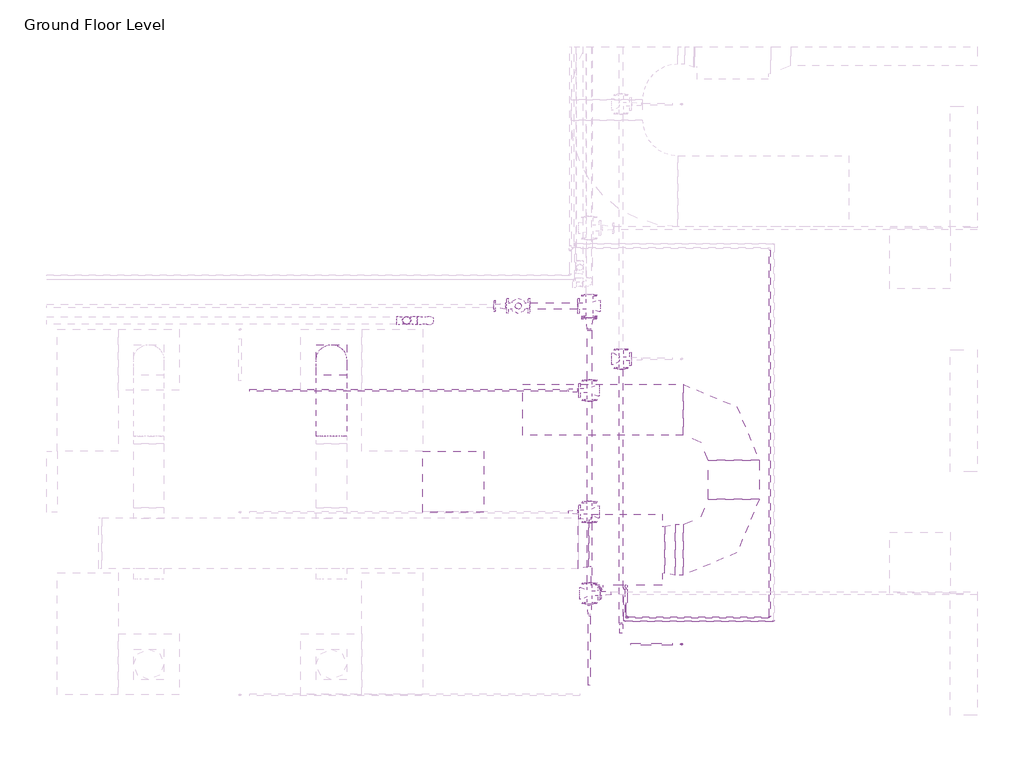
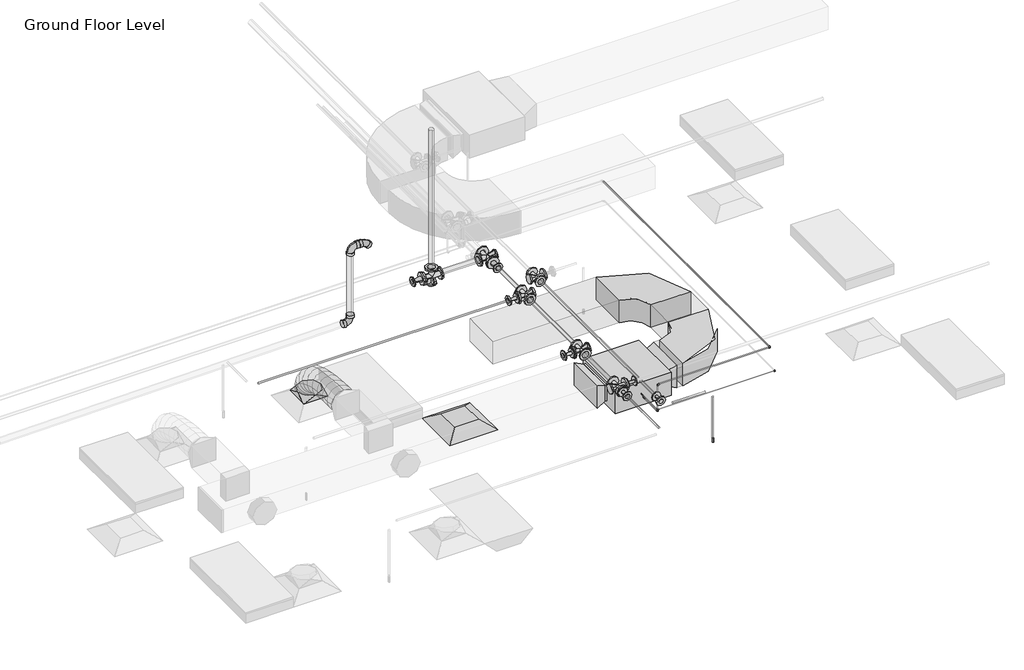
# One storey, part 14 of 66: 21 pipe fittings, 17 pipe segments, 5 duct fittings, 4 duct segments, 1 air terminal, 1 fire suppression terminal, 1 proxy.
"""IFC4 building model written with IfcOpenShell, lengths in millimetres."""

from ifc_helpers import new_model, si_unit, point, frame, frame_2d, origin, place, context, project, spatial, polyline, circle_curve, ellipse_curve, trimmed, segment, composite_curve, outline, extrude, transform, mapped, element, save
from ifc_brep_helpers import plane_surface, cylinder_surface, advanced_brep
from components import m_return_diffuser_600_x_600_face_300_x_300_connection_ff221211, fcu_daikin_iu_bad131e0, m_rectangular_elbow_radius_1_w_abe20169, m_rectangular_transition_angle_45_degree_2b595dfe, m_rectangular_transition_angle_45_degree_f7c2916c, m_rectangular_to_round_transition_angle_45_degree_641efff0, m_sprinkler_pendent_15_mm_pendent_06fcbd8e, m_bend_pvc_sch_40_dwv_standard_0eeb11e1, m_bend_pvc_sch_40_dwv_standard_cec44c9e, m_bend_pvc_sch_40_dwv_standard_14735a05, m_elbow_generic_standard_a088f956, m_elbow_generic_standard_2a704253, m_reducer_flanged_cs_class_150_standard_b6b67c23, m_reducer_flanged_cs_class_150_standard_ccf252ad, m_reducer_flanged_cs_class_150_standard_cc2a7c1d, m_reducer_flanged_cs_class_150_standard_a7631c35, m_reducer_flanged_cs_class_150_standard_678fb8eb, m_reducer_flanged_cs_class_150_standard_13db1923, m_tee_round_base_flanged_cs_class_150_standard_dd767e04, m_tee_round_base_flanged_cs_class_150_standard_7e5987a1, m_tee_round_base_flanged_cs_class_150_standard_9c9133d0

model = new_model("IFC4")

# Units and contexts
model_context = context("Model", 3, world=origin())
ifc_project = project(units=[si_unit("LENGTHUNIT", "METRE", prefix="MILLI")], contexts=[model_context])

# Site, building, storey
site = spatial("IfcSite", under=ifc_project)
building = spatial("IfcBuilding", under=site)
storey = spatial("IfcBuildingStorey", under=building, Name="Ground Floor Level", Elevation=900.0)

# Air terminal
placement = place(None, origin())
m_return_diffuser_600_x_600_face_300_x_300_connection_shape = m_return_diffuser_600_x_600_face_300_x_300_connection_ff221211(model_context)
element("IfcAirTerminal", 1, ObjectType="M_Return Diffuser : 600 x 600 Face 300 x 300 Connection", at=placement, inside=storey, context=model_context, shape_type="MappedRepresentation", body=[
    mapped(m_return_diffuser_600_x_600_face_300_x_300_connection_shape, transform((4342.7672394, -37764.7846466, 3650.0), x_axis=(1.0, 0.0, 0.0), y_axis=(0.0, 1.0, 0.0), z_axis=(0.0, 0.0, 1.0))),
])

# Proxy
fcu_daikin_iu_shape = fcu_daikin_iu_bad131e0(model_context)
element("IfcBuildingElementProxy", 2, Name="FCU-DAIKIN IU : 4.5kW, 230V/50Hz/1Ph", ObjectType="FCU-DAIKIN IU : 4.5kW, 230V/50Hz/1Ph", at=placement, inside=storey, context=model_context, shape_type="MappedRepresentation", body=[
    mapped(fcu_daikin_iu_shape, transform((6052.7672394, -38436.1128682, 3934.0875), x_axis=(0.0, -1.0, 0.0), y_axis=(1.0, 0.0, 0.0), z_axis=(0.0, 0.0, 1.0))),
])

# Duct fittings
m_rectangular_elbow_radius_1_w_shape = m_rectangular_elbow_radius_1_w_abe20169(model_context)
element("IfcDuctFitting", 3, ObjectType="M_Rectangular Elbow - Radius : 1 W", at=placement, inside=storey, context=model_context, shape_type="MappedRepresentation", body=[
    mapped(m_rectangular_elbow_radius_1_w_shape, transform((7108.1672394, -38436.1128682, 4075.2875), x_axis=(1.0, 0.0, 0.0), y_axis=(0.0, 1.0, 0.0), z_axis=(0.0, 0.0, 1.0))),
])
element("IfcDuctFitting", 4, ObjectType="M_Rectangular Elbow - Radius : 1 W", at=placement, inside=storey, context=model_context, shape_type="MappedRepresentation", body=[
    mapped(m_rectangular_elbow_radius_1_w_shape, transform((7108.1672394, -37056.1128682, 4075.2875), x_axis=(0.0, 1.0, 0.0), y_axis=(-1.0, 0.0, 0.0), z_axis=(0.0, 0.0, 1.0))),
])
m_rectangular_transition_angle_45_degree_shape = m_rectangular_transition_angle_45_degree_2b595dfe(model_context)
element("IfcDuctFitting", 5, ObjectType="M_Rectangular Transition - Angle : 45 Degree", at=placement, inside=storey, context=model_context, shape_type="MappedRepresentation", body=[
    mapped(m_rectangular_transition_angle_45_degree_shape, transform((5677.3672394, -38372.6128682, 4100.0), x_axis=(-1.0, 0.0, 0.0), y_axis=(0.0, -1.0, 0.0), z_axis=(0.0, 0.0, 1.0))),
])
m_rectangular_transition_angle_45_degree_2_shape = m_rectangular_transition_angle_45_degree_f7c2916c(model_context)
element("IfcDuctFitting", 6, ObjectType="M_Rectangular Transition - Angle : 45 Degree", at=placement, inside=storey, context=model_context, shape_type="MappedRepresentation", body=[
    mapped(m_rectangular_transition_angle_45_degree_2_shape, transform((6428.1672394, -38436.1128682, 4075.2875), x_axis=(1.0, 0.0, 0.0), y_axis=(0.0, 1.0, 0.0), z_axis=(0.0, 0.0, 1.0))),
])
m_rectangular_to_round_transition_angle_45_degree_shape = m_rectangular_to_round_transition_angle_45_degree_641efff0(model_context)
element("IfcDuctFitting", 7, ObjectType="M_Rectangular to Round Transition - Angle : 45 Degree", at=placement, inside=storey, context=model_context, shape_type="MappedRepresentation", body=[
    mapped(m_rectangular_to_round_transition_angle_45_degree_shape, transform((3142.7672394, -36564.7846466, 3751.6), x_axis=(0.0, 0.0, 1.0), y_axis=(-1.0, 0.0, 0.0), z_axis=(0.0, -1.0, 0.0))),
])

# Duct segments
element("IfcDuctSegment", 8, ObjectType="Flex - Round", at=placement, inside=storey, context=model_context, shape_type="AdvancedBrep", body=[
    advanced_brep(
    [(3292.7672394, -36564.7846466, 3826.6), (3142.7672394, -36714.7846466, 3826.6), (2992.7672394, -36564.7846466, 3826.6), (3142.7672394, -36414.7846466, 3826.6), (3292.7672394, -36564.7846466, 3857.9377114), (3142.7672394, -36714.7846466, 3832.2944892), (2992.7672394, -36564.7846466, 3857.9377114), (3142.7672394, -36414.7846466, 3883.5809337), (3292.7672394, -36581.8005792, 3906.2505728), (3142.7672394, -36715.5385581, 3834.435049), (2992.7672394, -36581.8005792, 3906.2505728), (3142.7672394, -36448.0626002, 3978.0660967), (3292.7672394, -36628.9844595, 3968.7113131), (3142.7672394, -36733.1903588, 3857.8020236), (2992.7672394, -36628.9844595, 3968.7113131), (3142.7672394, -36524.7785603, 4079.6206026), (3292.7672394, -36700.5404117, 4016.0700639), (3142.7672394, -36769.4744673, 3881.8163788), (2992.7672394, -36700.5404117, 4016.0700639), (3142.7672394, -36631.6063561, 4150.3237489), (3292.7672394, -36790.6725597, 4050.4146682), (3142.7672394, -36834.2333229, 3906.4925606), (2992.7672394, -36790.6725597, 4050.4146682), (3142.7672394, -36747.1117965, 4194.3367758), (3292.7672394, -36893.5850275, 4073.8329691), (3142.7672394, -36920.1459515, 3926.0424542), (2992.7672394, -36893.5850275, 4073.8329691), (3142.7672394, -36867.0241035, 4221.6234841), (3292.7672394, -37003.4819393, 4088.4128097), (3142.7672394, -37018.6328416, 3939.1085462), (2992.7672394, -37003.4819393, 4088.4128097), (3142.7672394, -36988.3310369, 4237.7170733), (3292.7672394, -37114.5674189, 4096.242033), (3142.7672394, -37122.0727471, 3946.398915), (2992.7672394, -37114.5674189, 4096.242033), (3142.7672394, -37107.0620907, 4246.085151), (3292.7672394, -37221.0455904, 4099.4084821), (3142.7672394, -37223.7370835, 3949.4222102), (2992.7672394, -37221.0455904, 4099.4084821), (3142.7672394, -37218.3540973, 4249.394754), (3292.7672394, -37317.1205779, 4100.0), (3142.7672394, -37316.1970701, 4249.9971571), (2992.7672394, -37317.1205779, 4100.0), (3142.7672394, -37318.0440857, 3950.0028429)],
    [
        (0, 1, circle_curve(frame((3142.7672394, -36564.7846466, 3826.6), z_axis=(0.0, 0.0, -1.0), x_axis=(1.0, 0.0, 0.0)), 150.0)),
        (1, 2, circle_curve(frame((3142.7672394, -36564.7846466, 3826.6), z_axis=(0.0, 0.0, -1.0), x_axis=(1.0, 0.0, 0.0)), 150.0)),
        (2, 3, circle_curve(frame((3142.7672394, -36564.7846466, 3826.6), z_axis=(0.0, 0.0, -1.0), x_axis=(1.0, 0.0, 0.0)), 150.0)),
        (3, 0, circle_curve(frame((3142.7672394, -36564.7846466, 3826.6), z_axis=(0.0, 0.0, -1.0), x_axis=(1.0, 0.0, 0.0)), 150.0)),
        (0, 4),
        (4, 5, ellipse_curve(frame((3142.7672394, -36564.7846466, 3857.9377114), z_axis=(0.0, 0.16851014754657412, -0.9856999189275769), x_axis=(0.0, -0.9856999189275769, -0.16851014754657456)), 152.176131, 150.0)),
        (5, 1),
        (5, 6, ellipse_curve(frame((3142.7672394, -36564.7846466, 3857.9377114), z_axis=(0.0, 0.16851014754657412, -0.9856999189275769), x_axis=(0.0, -0.9856999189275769, -0.16851014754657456)), 152.176131, 150.0)),
        (6, 2),
        (6, 7, ellipse_curve(frame((3142.7672394, -36564.7846466, 3857.9377114), z_axis=(0.0, 0.16851014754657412, -0.9856999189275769), x_axis=(0.0, -0.9856999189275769, -0.16851014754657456)), 152.176131, 150.0)),
        (7, 3),
        (7, 4, ellipse_curve(frame((3142.7672394, -36564.7846466, 3857.9377114), z_axis=(0.0, 0.16851014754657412, -0.9856999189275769), x_axis=(0.0, -0.9856999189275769, -0.16851014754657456)), 152.176131, 150.0)),
        (4, 8),
        (8, 9, ellipse_curve(frame((3142.7672394, -36581.8005792, 3906.2505728), z_axis=(0.0, 0.47309225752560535, -0.881012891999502), x_axis=(0.0, -0.8810128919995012, -0.473092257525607)), 151.8002519, 150.0)),
        (9, 5),
        (9, 10, ellipse_curve(frame((3142.7672394, -36581.8005792, 3906.2505728), z_axis=(0.0, 0.47309225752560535, -0.881012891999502), x_axis=(0.0, -0.8810128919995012, -0.473092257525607)), 151.8002519, 150.0)),
        (10, 6),
        (10, 11, ellipse_curve(frame((3142.7672394, -36581.8005792, 3906.2505728), z_axis=(0.0, 0.47309225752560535, -0.881012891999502), x_axis=(0.0, -0.8810128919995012, -0.473092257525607)), 151.8002519, 150.0)),
        (11, 7),
        (11, 8, ellipse_curve(frame((3142.7672394, -36581.8005792, 3906.2505728), z_axis=(0.0, 0.47309225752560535, -0.881012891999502), x_axis=(0.0, -0.8810128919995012, -0.473092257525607)), 151.8002519, 150.0)),
        (8, 12),
        (12, 13, ellipse_curve(frame((3142.7672394, -36628.9844595, 3968.7113131), z_axis=(0.0, 0.7287877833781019, -0.6847396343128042), x_axis=(0.0, -0.6847396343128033, -0.7287877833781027)), 152.1832446, 150.0)),
        (13, 9),
        (13, 14, ellipse_curve(frame((3142.7672394, -36628.9844595, 3968.7113131), z_axis=(0.0, 0.7287877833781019, -0.6847396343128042), x_axis=(0.0, -0.6847396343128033, -0.7287877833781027)), 152.1832446, 150.0)),
        (14, 10),
        (14, 15, ellipse_curve(frame((3142.7672394, -36628.9844595, 3968.7113131), z_axis=(0.0, 0.7287877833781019, -0.6847396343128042), x_axis=(0.0, -0.6847396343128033, -0.7287877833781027)), 152.1832446, 150.0)),
        (15, 11),
        (15, 12, ellipse_curve(frame((3142.7672394, -36628.9844595, 3968.7113131), z_axis=(0.0, 0.7287877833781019, -0.6847396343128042), x_axis=(0.0, -0.6847396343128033, -0.7287877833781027)), 152.1832446, 150.0)),
        (12, 16),
        (16, 17, ellipse_curve(frame((3142.7672394, -36700.5404117, 4016.0700639), z_axis=(0.0, 0.8895859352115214, -0.45676784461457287), x_axis=(0.0, -0.4567678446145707, -0.8895859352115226)), 150.91705, 150.0)),
        (17, 13),
        (17, 18, ellipse_curve(frame((3142.7672394, -36700.5404117, 4016.0700639), z_axis=(0.0, 0.8895859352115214, -0.45676784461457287), x_axis=(0.0, -0.4567678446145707, -0.8895859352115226)), 150.91705, 150.0)),
        (18, 14),
        (18, 19, ellipse_curve(frame((3142.7672394, -36700.5404117, 4016.0700639), z_axis=(0.0, 0.8895859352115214, -0.45676784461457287), x_axis=(0.0, -0.4567678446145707, -0.8895859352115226)), 150.91705, 150.0)),
        (19, 15),
        (19, 16, ellipse_curve(frame((3142.7672394, -36700.5404117, 4016.0700639), z_axis=(0.0, 0.8895859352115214, -0.45676784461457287), x_axis=(0.0, -0.4567678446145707, -0.8895859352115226)), 150.91705, 150.0)),
        (16, 20),
        (20, 21, ellipse_curve(frame((3142.7672394, -36790.6725597, 4050.4146682), z_axis=(0.0, 0.9571203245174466, -0.28969067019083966), x_axis=(0.0, -0.2896906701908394, -0.9571203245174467)), 150.369921, 150.0)),
        (21, 17),
        (21, 22, ellipse_curve(frame((3142.7672394, -36790.6725597, 4050.4146682), z_axis=(0.0, 0.9571203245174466, -0.28969067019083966), x_axis=(0.0, -0.2896906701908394, -0.9571203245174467)), 150.369921, 150.0)),
        (22, 18),
        (22, 23, ellipse_curve(frame((3142.7672394, -36790.6725597, 4050.4146682), z_axis=(0.0, 0.9571203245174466, -0.28969067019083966), x_axis=(0.0, -0.2896906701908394, -0.9571203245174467)), 150.369921, 150.0)),
        (23, 19),
        (23, 20, ellipse_curve(frame((3142.7672394, -36790.6725597, 4050.4146682), z_axis=(0.0, 0.9571203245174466, -0.28969067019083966), x_axis=(0.0, -0.2896906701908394, -0.9571203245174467)), 150.369921, 150.0)),
        (20, 24),
        (24, 25, ellipse_curve(frame((3142.7672394, -36893.5850275, 4073.8329691), z_axis=(0.0, 0.9842313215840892, -0.17688613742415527), x_axis=(0.0, -0.17688613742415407, -0.9842313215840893)), 150.1583131, 150.0)),
        (25, 21),
        (25, 26, ellipse_curve(frame((3142.7672394, -36893.5850275, 4073.8329691), z_axis=(0.0, 0.9842313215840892, -0.17688613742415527), x_axis=(0.0, -0.17688613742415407, -0.9842313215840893)), 150.1583131, 150.0)),
        (26, 22),
        (26, 27, ellipse_curve(frame((3142.7672394, -36893.5850275, 4073.8329691), z_axis=(0.0, 0.9842313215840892, -0.17688613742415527), x_axis=(0.0, -0.17688613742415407, -0.9842313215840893)), 150.1583131, 150.0)),
        (27, 23),
        (27, 24, ellipse_curve(frame((3142.7672394, -36893.5850275, 4073.8329691), z_axis=(0.0, 0.9842313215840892, -0.17688613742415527), x_axis=(0.0, -0.17688613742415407, -0.9842313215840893)), 150.1583131, 150.0)),
        (24, 28),
        (28, 29, ellipse_curve(frame((3142.7672394, -37003.4819393, 4088.4128097), z_axis=(0.0, 0.9948906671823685, -0.10095821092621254), x_axis=(0.0, -0.10095821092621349, -0.9948906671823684)), 150.0710264, 150.0)),
        (29, 25),
        (29, 30, ellipse_curve(frame((3142.7672394, -37003.4819393, 4088.4128097), z_axis=(0.0, 0.9948906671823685, -0.10095821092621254), x_axis=(0.0, -0.10095821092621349, -0.9948906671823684)), 150.0710264, 150.0)),
        (30, 26),
        (30, 31, ellipse_curve(frame((3142.7672394, -37003.4819393, 4088.4128097), z_axis=(0.0, 0.9948906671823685, -0.10095821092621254), x_axis=(0.0, -0.10095821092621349, -0.9948906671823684)), 150.0710264, 150.0)),
        (31, 27),
        (31, 28, ellipse_curve(frame((3142.7672394, -37003.4819393, 4088.4128097), z_axis=(0.0, 0.9948906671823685, -0.10095821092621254), x_axis=(0.0, -0.10095821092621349, -0.9948906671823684)), 150.0710264, 150.0)),
        (28, 32),
        (32, 33, ellipse_curve(frame((3142.7672394, -37114.5674189, 4096.242033), z_axis=(0.0, 0.9987479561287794, -0.05002519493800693), x_axis=(0.0, -0.05002519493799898, -0.99874795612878)), 150.0309634, 150.0)),
        (33, 29),
        (33, 34, ellipse_curve(frame((3142.7672394, -37114.5674189, 4096.242033), z_axis=(0.0, 0.9987479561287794, -0.05002519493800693), x_axis=(0.0, -0.05002519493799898, -0.99874795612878)), 150.0309634, 150.0)),
        (34, 30),
        (34, 35, ellipse_curve(frame((3142.7672394, -37114.5674189, 4096.242033), z_axis=(0.0, 0.9987479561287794, -0.05002519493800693), x_axis=(0.0, -0.05002519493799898, -0.99874795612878)), 150.0309634, 150.0)),
        (35, 31),
        (35, 32, ellipse_curve(frame((3142.7672394, -37114.5674189, 4096.242033), z_axis=(0.0, 0.9987479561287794, -0.05002519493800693), x_axis=(0.0, -0.05002519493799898, -0.99874795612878)), 150.0309634, 150.0)),
        (32, 36),
        (36, 37, ellipse_curve(frame((3142.7672394, -37221.0455904, 4099.4084821), z_axis=(0.0, 0.999839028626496, -0.01794204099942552), x_axis=(0.0, -0.01794204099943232, -0.9998390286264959)), 150.0104193, 150.0)),
        (37, 33),
        (37, 38, ellipse_curve(frame((3142.7672394, -37221.0455904, 4099.4084821), z_axis=(0.0, 0.999839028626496, -0.01794204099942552), x_axis=(0.0, -0.01794204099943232, -0.9998390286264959)), 150.0104193, 150.0)),
        (38, 34),
        (38, 39, ellipse_curve(frame((3142.7672394, -37221.0455904, 4099.4084821), z_axis=(0.0, 0.999839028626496, -0.01794204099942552), x_axis=(0.0, -0.01794204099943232, -0.9998390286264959)), 150.0104193, 150.0)),
        (39, 35),
        (39, 36, ellipse_curve(frame((3142.7672394, -37221.0455904, 4099.4084821), z_axis=(0.0, 0.999839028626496, -0.01794204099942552), x_axis=(0.0, -0.01794204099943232, -0.9998390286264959)), 150.0104193, 150.0)),
        (40, 41, circle_curve(frame((3142.7672394, -37317.1205779, 4100.0), z_axis=(0.0, -0.9999810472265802, 0.006156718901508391), x_axis=(1.0, 0.0, 0.0)), 150.0)),
        (41, 42, circle_curve(frame((3142.7672394, -37317.1205779, 4100.0), z_axis=(0.0, -0.9999810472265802, 0.006156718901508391), x_axis=(1.0, 0.0, 0.0)), 150.0)),
        (42, 43, circle_curve(frame((3142.7672394, -37317.1205779, 4100.0), z_axis=(0.0, -0.9999810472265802, 0.006156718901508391), x_axis=(1.0, 0.0, 0.0)), 150.0)),
        (43, 40, circle_curve(frame((3142.7672394, -37317.1205779, 4100.0), z_axis=(0.0, -0.9999810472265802, 0.006156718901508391), x_axis=(1.0, 0.0, 0.0)), 150.0)),
        (36, 40),
        (43, 37),
        (42, 38),
        (41, 39),
    ],
    [
        plane_surface(frame((3142.7672394, -36714.7846466, 3826.6), z_axis=(0.0, 0.0, -1.0), x_axis=(1.0, 0.0, 0.0))),
        cylinder_surface(frame((3142.7672394, -36564.7846466, 3826.6), z_axis=(0.0, 0.0, -1.0), x_axis=(1.0, 0.0, 0.0)), 150.0),
        cylinder_surface(frame((3142.7672394, -36564.7846466, 3857.9377114), z_axis=(0.0, 0.3322008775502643, -0.9432086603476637), x_axis=(1.0, 0.0, 0.0)), 150.0),
        cylinder_surface(frame((3142.7672394, -36581.8005792, 3906.2505728), z_axis=(0.0, 0.6027625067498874, -0.7979206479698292), x_axis=(1.0, 0.0, 0.0)), 150.0),
        cylinder_surface(frame((3142.7672394, -36628.9844595, 3968.7113131), z_axis=(0.0, 0.8339024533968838, -0.5519118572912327), x_axis=(1.0, 0.0, 0.0)), 150.0),
        cylinder_surface(frame((3142.7672394, -36700.5404117, 4016.0700639), z_axis=(0.0, 0.9344582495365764, -0.3560727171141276), x_axis=(1.0, 0.0, 0.0)), 150.0),
        cylinder_surface(frame((3142.7672394, -36790.6725597, 4050.4146682), z_axis=(0.0, 0.9750732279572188, -0.22188330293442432), x_axis=(1.0, 0.0, 0.0)), 150.0),
        cylinder_surface(frame((3142.7672394, -36893.5850275, 4073.8329691), z_axis=(0.0, 0.991314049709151, -0.13151598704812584), x_axis=(1.0, 0.0, 0.0)), 150.0),
        cylinder_surface(frame((3142.7672394, -37003.4819393, 4088.4128097), z_axis=(0.0, 0.9975255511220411, -0.07030487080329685), x_axis=(1.0, 0.0, 0.0)), 150.0),
        cylinder_surface(frame((3142.7672394, -37114.5674189, 4096.242033), z_axis=(0.0, 0.9995581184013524, -0.029724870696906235), x_axis=(1.0, 0.0, 0.0)), 150.0),
        plane_surface(frame((3142.7672394, -37318.0440857, 3950.0028429), z_axis=(0.0, -0.9999810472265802, 0.006156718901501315), x_axis=(1.0, 0.0, 0.0))),
        cylinder_surface(frame((3142.7672394, -37221.0455904, 4099.4084821), z_axis=(0.0, 0.9999810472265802, -0.006156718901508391), x_axis=(1.0, 0.0, 0.0)), 150.0),
    ],
    [
        (0, [[1, 2, 3, 4]]),
        (1, [[-1, 5, 6, 7]]),
        (1, [[-2, -7, 8, 9]]),
        (1, [[-3, -9, 10, 11]]),
        (1, [[-4, -11, 12, -5]]),
        (2, [[-6, 13, 14, 15]]),
        (2, [[-8, -15, 16, 17]]),
        (2, [[-10, -17, 18, 19]]),
        (2, [[-12, -19, 20, -13]]),
        (3, [[-14, 21, 22, 23]]),
        (3, [[-16, -23, 24, 25]]),
        (3, [[-18, -25, 26, 27]]),
        (3, [[-20, -27, 28, -21]]),
        (4, [[-22, 29, 30, 31]]),
        (4, [[-24, -31, 32, 33]]),
        (4, [[-26, -33, 34, 35]]),
        (4, [[-28, -35, 36, -29]]),
        (5, [[-30, 37, 38, 39]]),
        (5, [[-32, -39, 40, 41]]),
        (5, [[-34, -41, 42, 43]]),
        (5, [[-36, -43, 44, -37]]),
        (6, [[-38, 45, 46, 47]]),
        (6, [[-40, -47, 48, 49]]),
        (6, [[-42, -49, 50, 51]]),
        (6, [[-44, -51, 52, -45]]),
        (7, [[-46, 53, 54, 55]]),
        (7, [[-48, -55, 56, 57]]),
        (7, [[-50, -57, 58, 59]]),
        (7, [[-52, -59, 60, -53]]),
        (8, [[-54, 61, 62, 63]]),
        (8, [[-56, -63, 64, 65]]),
        (8, [[-58, -65, 66, 67]]),
        (8, [[-60, -67, 68, -61]]),
        (9, [[-62, 69, 70, 71]]),
        (9, [[-64, -71, 72, 73]]),
        (9, [[-66, -73, 74, 75]]),
        (9, [[-68, -75, 76, -69]]),
        (10, [[77, 78, 79, 80]]),
        (11, [[-70, 81, -80, 82]]),
        (11, [[-72, -82, -79, 83]]),
        (11, [[-74, -83, -78, 84]]),
        (11, [[-76, -84, -77, -81]]),
    ],
),
])
element("IfcDuctSegment", 9, ObjectType="Radius Elbows / Taps", at=placement, inside=storey, context=model_context, shape_type="SweptSolid", body=[
    extrude(outline(polyline([(6531.6162906, -38686.1128682), (6531.6162906, -38186.1128682), (6608.1672394, -38186.1128682), (6608.1672394, -38686.1128682), (6531.6162906, -38686.1128682)])), frame((0.0, 0.0, 3925.2875), z_axis=(0.0, 0.0, 1.0), x_axis=(1.0, 0.0, 0.0)), (0.0, 0.0, 1.0), 300.0),
])
element("IfcDuctSegment", 10, ObjectType="Radius Elbows / Taps", at=placement, inside=storey, context=model_context, shape_type="SweptSolid", body=[
    extrude(outline(polyline([(7358.1672394, -37936.1128682), (6858.1672394, -37936.1128682), (6858.1672394, -37556.1128682), (7358.1672394, -37556.1128682), (7358.1672394, -37936.1128682)])), frame((0.0, 0.0, 3925.2875), z_axis=(0.0, 0.0, 1.0), x_axis=(1.0, 0.0, 0.0)), (0.0, 0.0, 1.0), 300.0),
])
element("IfcDuctSegment", 11, ObjectType="Radius Elbows / Taps", at=placement, inside=storey, context=model_context, shape_type="SweptSolid", body=[
    extrude(outline(polyline([(6608.1672394, -36806.1128682), (6608.1672394, -37306.1128682), (5028.1672394, -37306.1128682), (5028.1672394, -36806.1128682), (6608.1672394, -36806.1128682)])), frame((0.0, 0.0, 3925.2875), z_axis=(0.0, 0.0, 1.0), x_axis=(1.0, 0.0, 0.0)), (0.0, 0.0, 1.0), 300.0),
])

# Fire suppression terminal
m_sprinkler_pendent_15_mm_pendent_shape = m_sprinkler_pendent_15_mm_pendent_06fcbd8e(model_context)
element("IfcFireSuppressionTerminal", 12, ObjectType="M_Sprinkler - Pendent : 15 mm Pendent", at=placement, inside=storey, context=model_context, shape_type="MappedRepresentation", body=[
    mapped(m_sprinkler_pendent_15_mm_pendent_shape, transform((6592.5481019, -39366.4607861, 3650.0), x_axis=(1.0, 0.0, 0.0), y_axis=(0.0, 1.0, 0.0), z_axis=(0.0, 0.0, 1.0))),
])

# Pipe fittings
m_bend_pvc_sch_40_dwv_standard_shape = m_bend_pvc_sch_40_dwv_standard_0eeb11e1(model_context)
element("IfcPipeFitting", 13, ObjectType="M_Bend - PVC - Sch 40 - DWV : Standard", at=placement, inside=storey, context=model_context, shape_type="MappedRepresentation", body=[
    mapped(m_bend_pvc_sch_40_dwv_standard_shape, transform((3884.407481, -36176.1401483, 4209.2900099), x_axis=(0.9999500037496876, 0.0, 0.009999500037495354), y_axis=(-0.009999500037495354, 0.0, 0.9999500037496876), z_axis=(0.0, -1.0, 0.0))),
])
m_bend_pvc_sch_40_dwv_standard_2_shape = m_bend_pvc_sch_40_dwv_standard_cec44c9e(model_context)
element("IfcPipeFitting", 14, ObjectType="M_Bend - PVC - Sch 40 - DWV : Standard", at=placement, inside=storey, context=model_context, shape_type="MappedRepresentation", body=[
    mapped(m_bend_pvc_sch_40_dwv_standard_2_shape, transform((3884.3964821, -36176.1401483, 5200.5901311), x_axis=(0.0, 0.0, 1.0), y_axis=(1.0, 0.0, 0.0), z_axis=(0.0, 1.0, 0.0))),
])
m_bend_pvc_sch_40_dwv_standard_3_shape = m_bend_pvc_sch_40_dwv_standard_14735a05(model_context)
element("IfcPipeFitting", 15, ObjectType="M_Bend - PVC - Sch 40 - DWV : Standard", at=placement, inside=storey, context=model_context, shape_type="MappedRepresentation", body=[
    mapped(m_bend_pvc_sch_40_dwv_standard_3_shape, transform((4066.142039, -36176.1401483, 5198.6726756), x_axis=(0.9999500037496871, 0.0, -0.009999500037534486), y_axis=(-0.009999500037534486, 0.0, -0.9999500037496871), z_axis=(0.0, 1.0, 0.0))),
])
m_elbow_generic_standard_shape = m_elbow_generic_standard_a088f956(model_context)
element("IfcPipeFitting", 16, ObjectType="M_Elbow - Generic : Standard", at=placement, inside=storey, context=model_context, shape_type="MappedRepresentation", body=[
    mapped(m_elbow_generic_standard_shape, transform((6052.7672394, -39103.1206952, 4034.0875), x_axis=(0.0, -1.0, 0.0), y_axis=(0.0, 0.0, 1.0), z_axis=(-1.0, 0.0, 0.0))),
])
element("IfcPipeFitting", 17, ObjectType="M_Elbow - Generic : Standard", at=placement, inside=storey, context=model_context, shape_type="MappedRepresentation", body=[
    mapped(m_elbow_generic_standard_shape, transform((6052.7672394, -39103.1206952, 4390.0), x_axis=(0.0, 0.0, 1.0), y_axis=(1.0, 0.0, 0.0), z_axis=(0.0, 1.0, 0.0))),
])
element("IfcPipeFitting", 18, ObjectType="M_Elbow - Generic : Standard", at=placement, inside=storey, context=model_context, shape_type="MappedRepresentation", body=[
    mapped(m_elbow_generic_standard_shape, transform((7462.8951827, -39103.1206952, 4390.0), x_axis=(1.0, 0.0, 0.0), y_axis=(0.0, 1.0, 0.0), z_axis=(0.0, 0.0, 1.0))),
])
m_elbow_generic_standard_2_shape = m_elbow_generic_standard_2a704253(model_context)
element("IfcPipeFitting", 19, ObjectType="M_Elbow - Generic : Standard", at=placement, inside=storey, context=model_context, shape_type="MappedRepresentation", body=[
    mapped(m_elbow_generic_standard_2_shape, transform((7503.9904113, -39140.6009836, 4084.9), x_axis=(1.0, 0.0, 0.0), y_axis=(0.0, 1.0, 0.0), z_axis=(0.0, 0.0, 1.0))),
])
element("IfcPipeFitting", 20, ObjectType="M_Elbow - Generic : Standard", at=placement, inside=storey, context=model_context, shape_type="MappedRepresentation", body=[
    mapped(m_elbow_generic_standard_2_shape, transform((6027.7672393, -39140.6009836, 4084.9), x_axis=(0.0, -0.9999999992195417, 3.9508437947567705e-05), y_axis=(1.0000000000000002, 0.0, 0.0), z_axis=(0.0, 3.9508437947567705e-05, 0.9999999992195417))),
])
m_reducer_flanged_cs_class_150_standard_shape = m_reducer_flanged_cs_class_150_standard_b6b67c23(model_context)
element("IfcPipeFitting", 21, ObjectType="M_Reducer - Flanged - CS - Class 150 : Standard", at=placement, inside=storey, context=model_context, shape_type="MappedRepresentation", body=[
    mapped(m_reducer_flanged_cs_class_150_standard_shape, transform((5790.7160832, -38864.7846466, 4347.5), x_axis=(1.0, 0.0, 0.0), y_axis=(0.0, 0.0, 1.0), z_axis=(0.0, -1.0, 0.0))),
])
m_reducer_flanged_cs_class_150_standard_2_shape = m_reducer_flanged_cs_class_150_standard_ccf252ad(model_context)
element("IfcPipeFitting", 22, ObjectType="M_Reducer - Flanged - CS - Class 150 : Standard", at=placement, inside=storey, context=model_context, shape_type="MappedRepresentation", body=[
    mapped(m_reducer_flanged_cs_class_150_standard_2_shape, transform((5997.057812, -39159.4521923, 4291.0943441), x_axis=(0.0, -1.0, 0.0), y_axis=(1.0, 0.0, 0.0), z_axis=(0.0, 0.0, 1.0))),
])
m_reducer_flanged_cs_class_150_standard_3_shape = m_reducer_flanged_cs_class_150_standard_cc2a7c1d(model_context)
element("IfcPipeFitting", 23, ObjectType="M_Reducer - Flanged - CS - Class 150 : Standard", at=placement, inside=storey, context=model_context, shape_type="MappedRepresentation", body=[
    mapped(m_reducer_flanged_cs_class_150_standard_3_shape, transform((5578.5188957, -38064.7846466, 4347.5), x_axis=(-1.0, 0.0, 0.0), y_axis=(0.0, 0.0, -1.0), z_axis=(0.0, -1.0, 0.0))),
])
m_reducer_flanged_cs_class_150_standard_4_shape = m_reducer_flanged_cs_class_150_standard_a7631c35(model_context)
element("IfcPipeFitting", 24, ObjectType="M_Reducer - Flanged - CS - Class 150 : Standard", at=placement, inside=storey, context=model_context, shape_type="MappedRepresentation", body=[
    mapped(m_reducer_flanged_cs_class_150_standard_4_shape, transform((4870.6174894, -36033.7985971, 4347.5), x_axis=(-1.0, 0.0, 0.0), y_axis=(0.0, -1.0, 0.0), z_axis=(0.0, 0.0, 1.0))),
])
m_reducer_flanged_cs_class_150_standard_5_shape = m_reducer_flanged_cs_class_150_standard_678fb8eb(model_context)
element("IfcPipeFitting", 25, ObjectType="M_Reducer - Flanged - CS - Class 150 : Standard", at=placement, inside=storey, context=model_context, shape_type="MappedRepresentation", body=[
    mapped(m_reducer_flanged_cs_class_150_standard_5_shape, transform((5578.5188957, -36864.7846466, 4347.5), x_axis=(-1.0, 0.0, 0.0), y_axis=(0.0, -1.0, 0.0), z_axis=(0.0, 0.0, 1.0))),
])
element("IfcPipeFitting", 26, ObjectType="M_Reducer - Flanged - CS - Class 150 : Standard", at=placement, inside=storey, context=model_context, shape_type="MappedRepresentation", body=[
    mapped(m_reducer_flanged_cs_class_150_standard_5_shape, transform((5684.6174894, -38970.8832404, 4347.5), x_axis=(0.0, -1.0, 0.0), y_axis=(1.0, 0.0, 0.0), z_axis=(0.0, 0.0, 1.0))),
])
m_reducer_flanged_cs_class_150_standard_6_shape = m_reducer_flanged_cs_class_150_standard_13db1923(model_context)
element("IfcPipeFitting", 27, ObjectType="M_Reducer - Flanged - CS - Class 150 : Standard", at=placement, inside=storey, context=model_context, shape_type="MappedRepresentation", body=[
    mapped(m_reducer_flanged_cs_class_150_standard_6_shape, transform((5684.6174894, -36147.7985971, 4347.5), x_axis=(0.0, -1.0, 0.0), y_axis=(1.0, 0.0, 0.0), z_axis=(0.0, 0.0, 1.0))),
])
m_tee_round_base_flanged_cs_class_150_standard_shape = m_tee_round_base_flanged_cs_class_150_standard_dd767e04(model_context)
element("IfcPipeFitting", 28, ObjectType="M_Tee Round Base - Flanged - CS - Class 150 : Standard", at=placement, inside=storey, context=model_context, shape_type="MappedRepresentation", body=[
    mapped(m_tee_round_base_flanged_cs_class_150_standard_shape, transform((5684.6174894, -36033.7985971, 4347.5), x_axis=(0.0, 1.0, 0.0), y_axis=(1.0, 0.0, 0.0), z_axis=(0.0, 0.0, -1.0))),
])
element("IfcPipeFitting", 29, ObjectType="M_Tee Round Base - Flanged - CS - Class 150 : Standard", at=placement, inside=storey, context=model_context, shape_type="MappedRepresentation", body=[
    mapped(m_tee_round_base_flanged_cs_class_150_standard_shape, transform((4984.6174894, -36033.7985971, 4347.5), x_axis=(-1.0, 0.0, 0.0), y_axis=(0.0, 0.0, -1.0), z_axis=(0.0, -1.0, 0.0))),
])
m_tee_round_base_flanged_cs_class_150_standard_2_shape = m_tee_round_base_flanged_cs_class_150_standard_7e5987a1(model_context)
element("IfcPipeFitting", 30, ObjectType="M_Tee Round Base - Flanged - CS - Class 150 : Standard", at=placement, inside=storey, context=model_context, shape_type="MappedRepresentation", body=[
    mapped(m_tee_round_base_flanged_cs_class_150_standard_2_shape, transform((5997.057812, -36555.4049984, 4291.0943441), x_axis=(0.0, 1.0, 0.0), y_axis=(-1.0, 0.0, 0.0), z_axis=(0.0, 0.0, 1.0))),
])
m_tee_round_base_flanged_cs_class_150_standard_3_shape = m_tee_round_base_flanged_cs_class_150_standard_9c9133d0(model_context)
element("IfcPipeFitting", 31, ObjectType="M_Tee Round Base - Flanged - CS - Class 150 : Standard", at=placement, inside=storey, context=model_context, shape_type="MappedRepresentation", body=[
    mapped(m_tee_round_base_flanged_cs_class_150_standard_3_shape, transform((5684.6174894, -38064.7846466, 4347.5), x_axis=(0.0, 1.0, 0.0), y_axis=(1.0, 0.0, 0.0), z_axis=(0.0, 0.0, -1.0))),
])
element("IfcPipeFitting", 32, ObjectType="M_Tee Round Base - Flanged - CS - Class 150 : Standard", at=placement, inside=storey, context=model_context, shape_type="MappedRepresentation", body=[
    mapped(m_tee_round_base_flanged_cs_class_150_standard_3_shape, transform((5684.6174894, -38864.7846466, 4347.5), x_axis=(0.0, 1.0, 0.0), y_axis=(-1.0, 0.0, 0.0), z_axis=(0.0, 0.0, 1.0))),
])
element("IfcPipeFitting", 33, ObjectType="M_Tee Round Base - Flanged - CS - Class 150 : Standard", at=placement, inside=storey, context=model_context, shape_type="MappedRepresentation", body=[
    mapped(m_tee_round_base_flanged_cs_class_150_standard_3_shape, transform((5684.6174894, -36864.7846466, 4347.5), x_axis=(0.0, 1.0, 0.0), y_axis=(1.0, 0.0, 0.0), z_axis=(0.0, 0.0, -1.0))),
])

# Pipe segments
element("IfcPipeSegment", 34, ObjectType="Copper", at=placement, inside=storey, context=model_context, shape_type="SweptSolid", body=[
    extrude(outline(composite_curve([segment(trimmed(circle_curve(frame_2d((4390.0, 7462.8951827)), 6.5), [point((4390.0, 7456.3951827))], [point((4383.5, 7462.8951827))], False, "CARTESIAN"), True, "CONTINUOUS"), segment(trimmed(circle_curve(frame_2d((4390.0, 7462.8951827)), 6.5), [point((4383.5, 7462.8951827))], [point((4390.0, 7469.3951827))], False, "CARTESIAN"), True, "CONTINUOUS"), segment(trimmed(circle_curve(frame_2d((4390.0, 7462.8951827)), 6.5), [point((4390.0, 7469.3951827))], [point((4396.5, 7462.8951827))], False, "CARTESIAN"), True, "CONTINUOUS"), segment(trimmed(circle_curve(frame_2d((4390.0, 7462.8951827)), 6.5), [point((4396.5, 7462.8951827))], [point((4390.0, 7456.3951827))], False, "CARTESIAN"), True, "CONTINUOUS")], self_intersect=False)), frame((0.0, -39088.8331952, 0.0), z_axis=(0.0, 1.0, 0.0), x_axis=(0.0, 0.0, 1.0)), (0.0, 0.0, 1.0), 3611.425),
])
element("IfcPipeSegment", 35, ObjectType="Copper", at=placement, inside=storey, context=model_context, shape_type="SweptSolid", body=[
    extrude(outline(composite_curve([segment(trimmed(circle_curve(frame_2d((-39103.1206952, 4390.0)), 6.5), [point((-39109.6206952, 4390.0))], [point((-39103.1206952, 4396.5))], False, "CARTESIAN"), True, "CONTINUOUS"), segment(trimmed(circle_curve(frame_2d((-39103.1206952, 4390.0)), 6.5), [point((-39103.1206952, 4396.5))], [point((-39096.6206952, 4390.0))], False, "CARTESIAN"), True, "CONTINUOUS"), segment(trimmed(circle_curve(frame_2d((-39103.1206952, 4390.0)), 6.5), [point((-39096.6206952, 4390.0))], [point((-39103.1206952, 4383.5))], False, "CARTESIAN"), True, "CONTINUOUS"), segment(trimmed(circle_curve(frame_2d((-39103.1206952, 4390.0)), 6.5), [point((-39103.1206952, 4383.5))], [point((-39109.6206952, 4390.0))], False, "CARTESIAN"), True, "CONTINUOUS")], self_intersect=False)), frame((6067.0547394, 0.0, 0.0), z_axis=(1.0, 0.0, 0.0), x_axis=(0.0, 1.0, 0.0)), (0.0, 0.0, 1.0), 1381.5529433),
])
element("IfcPipeSegment", 36, ObjectType="Copper", at=placement, inside=storey, context=model_context, shape_type="SweptSolid", body=[
    extrude(outline(composite_curve([segment(trimmed(circle_curve(frame_2d((-39140.6009836, 4084.9)), 3.35), [point((-39137.2509836, 4084.9))], [point((-39140.6009836, 4081.55))], False, "CARTESIAN"), True, "CONTINUOUS"), segment(trimmed(circle_curve(frame_2d((-39140.6009836, 4084.9)), 3.35), [point((-39140.6009836, 4081.55))], [point((-39143.9509836, 4084.9))], False, "CARTESIAN"), True, "CONTINUOUS"), segment(trimmed(circle_curve(frame_2d((-39140.6009836, 4084.9)), 3.35), [point((-39143.9509836, 4084.9))], [point((-39140.6009836, 4088.25))], False, "CARTESIAN"), True, "CONTINUOUS"), segment(trimmed(circle_curve(frame_2d((-39140.6009836, 4084.9)), 3.35), [point((-39140.6009836, 4088.25))], [point((-39137.2509836, 4084.9))], False, "CARTESIAN"), True, "CONTINUOUS")], self_intersect=False)), frame((6038.9047393, 0.0, 0.0), z_axis=(1.0, 0.0, 0.0), x_axis=(0.0, 1.0, 0.0)), (0.0, 0.0, 1.0), 1453.948172),
])
element("IfcPipeSegment", 37, ObjectType="Copper", at=placement, inside=storey, context=model_context, shape_type="SweptSolid", body=[
    extrude(outline(composite_curve([segment(trimmed(circle_curve(frame_2d((0.0, -3.35)), 3.35), [point((0.0, -6.7))], [point((-3.35, -3.35))], False, "CARTESIAN"), True, "CONTINUOUS"), segment(trimmed(circle_curve(frame_2d((0.0, -3.35)), 3.35), [point((-3.35, -3.35))], [point((0.0, 0.0))], False, "CARTESIAN"), True, "CONTINUOUS"), segment(trimmed(circle_curve(frame_2d((0.0, -3.35)), 3.35), [point((0.0, 0.0))], [point((3.35, -3.35))], False, "CARTESIAN"), True, "CONTINUOUS"), segment(trimmed(circle_curve(frame_2d((0.0, -3.35)), 3.35), [point((3.35, -3.35))], [point((0.0, -6.7))], False, "CARTESIAN"), True, "CONTINUOUS")], self_intersect=False)), frame((6024.4172393, -38824.2128682, 4084.8875), z_axis=(0.0, -0.9999999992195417, 3.950843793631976e-05), x_axis=(0.0, 3.950843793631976e-05, 0.9999999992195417)), (0.0, 0.0, 1.0), 305.2506156),
])
element("IfcPipeSegment", 38, ObjectType="Copper", at=placement, inside=storey, context=model_context, shape_type="SweptSolid", body=[
    extrude(outline(composite_curve([segment(trimmed(circle_curve(frame_2d((4034.0875, 6052.7672394)), 6.5), [point((4034.0875, 6046.2672394))], [point((4027.5875, 6052.7672394))], False, "CARTESIAN"), True, "CONTINUOUS"), segment(trimmed(circle_curve(frame_2d((4034.0875, 6052.7672394)), 6.5), [point((4027.5875, 6052.7672394))], [point((4034.0875, 6059.2672394))], False, "CARTESIAN"), True, "CONTINUOUS"), segment(trimmed(circle_curve(frame_2d((4034.0875, 6052.7672394)), 6.5), [point((4034.0875, 6059.2672394))], [point((4040.5875, 6052.7672394))], False, "CARTESIAN"), True, "CONTINUOUS"), segment(trimmed(circle_curve(frame_2d((4034.0875, 6052.7672394)), 6.5), [point((4040.5875, 6052.7672394))], [point((4034.0875, 6046.2672394))], False, "CARTESIAN"), True, "CONTINUOUS")], self_intersect=False)), frame((0.0, -39088.8331952, 0.0), z_axis=(0.0, 1.0, 0.0), x_axis=(0.0, 0.0, 1.0)), (0.0, 0.0, 1.0), 264.6203269),
])
element("IfcPipeSegment", 39, ObjectType="Copper", at=placement, inside=storey, context=model_context, shape_type="SweptSolid", body=[
    extrude(outline(composite_curve([segment(trimmed(circle_curve(frame_2d((6052.7672394, -39103.1206952)), 6.5), [point((6046.2672394, -39103.1206952))], [point((6052.7672394, -39096.6206952))], False, "CARTESIAN"), True, "CONTINUOUS"), segment(trimmed(circle_curve(frame_2d((6052.7672394, -39103.1206952)), 6.5), [point((6052.7672394, -39096.6206952))], [point((6059.2672394, -39103.1206952))], False, "CARTESIAN"), True, "CONTINUOUS"), segment(trimmed(circle_curve(frame_2d((6052.7672394, -39103.1206952)), 6.5), [point((6059.2672394, -39103.1206952))], [point((6052.7672394, -39109.6206952))], False, "CARTESIAN"), True, "CONTINUOUS"), segment(trimmed(circle_curve(frame_2d((6052.7672394, -39103.1206952)), 6.5), [point((6052.7672394, -39109.6206952))], [point((6046.2672394, -39103.1206952))], False, "CARTESIAN"), True, "CONTINUOUS")], self_intersect=False)), frame((0.0, 0.0, 4048.375), z_axis=(0.0, 0.0, 1.0), x_axis=(1.0, 0.0, 0.0)), (0.0, 0.0, 1.0), 327.3375),
])
element("IfcPipeSegment", 40, ObjectType="PVC - DWV", at=placement, inside=storey, context=model_context, shape_type="SweptSolid", body=[
    extrude(outline(composite_curve([segment(trimmed(circle_curve(frame_2d((0.0, 36.5125)), 36.5125), [point((-36.5125, 36.5125))], [point((0.0, 73.025))], False, "CARTESIAN"), True, "CONTINUOUS"), segment(trimmed(circle_curve(frame_2d((0.0, 36.5125)), 36.5125), [point((0.0, 73.025))], [point((36.5125, 36.5125))], False, "CARTESIAN"), True, "CONTINUOUS"), segment(trimmed(circle_curve(frame_2d((0.0, 36.5125)), 36.5125), [point((36.5125, 36.5125))], [point((0.0, 0.0))], False, "CARTESIAN"), True, "CONTINUOUS"), segment(trimmed(circle_curve(frame_2d((0.0, 36.5125)), 36.5125), [point((0.0, 0.0))], [point((-36.5125, 36.5125))], False, "CARTESIAN"), True, "CONTINUOUS")], self_intersect=False)), frame((3884.407481, -36212.6526483, 4308.3040724), z_axis=(-1.386523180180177e-05, 0.0, 0.9999999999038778), x_axis=(0.9999999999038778, 0.0, 1.386523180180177e-05)), (0.0, 0.0, 1.0), 793.2719963),
])
element("IfcPipeSegment", 41, ObjectType="Steel flanged", at=placement, inside=storey, context=model_context, shape_type="SweptSolid", body=[
    extrude(outline(composite_curve([segment(trimmed(circle_curve(frame_2d((6592.5481019, -39366.4607861)), 10.668), [point((6581.8801019, -39366.4607861))], [point((6592.5481019, -39355.7927861))], False, "CARTESIAN"), True, "CONTINUOUS"), segment(trimmed(circle_curve(frame_2d((6592.5481019, -39366.4607861)), 10.668), [point((6592.5481019, -39355.7927861))], [point((6603.2161019, -39366.4607861))], False, "CARTESIAN"), True, "CONTINUOUS"), segment(trimmed(circle_curve(frame_2d((6592.5481019, -39366.4607861)), 10.668), [point((6603.2161019, -39366.4607861))], [point((6592.5481019, -39377.1287861))], False, "CARTESIAN"), True, "CONTINUOUS"), segment(trimmed(circle_curve(frame_2d((6592.5481019, -39366.4607861)), 10.668), [point((6592.5481019, -39377.1287861))], [point((6581.8801019, -39366.4607861))], False, "CARTESIAN"), True, "CONTINUOUS")], self_intersect=False)), frame((0.0, 0.0, 3650.0), z_axis=(0.0, 0.0, 1.0), x_axis=(1.0, 0.0, 0.0)), (0.0, 0.0, 1.0), 548.2668816),
])
element("IfcPipeSegment", 42, ObjectType="Steel flanged", at=placement, inside=storey, context=model_context, shape_type="SweptSolid", body=[
    extrude(outline(composite_curve([segment(trimmed(circle_curve(frame_2d((-39366.4607861, 4291.2754753)), 10.668), [point((-39355.7927861, 4291.2754753))], [point((-39366.4607861, 4280.6074753))], False, "CARTESIAN"), True, "CONTINUOUS"), segment(trimmed(circle_curve(frame_2d((-39366.4607861, 4291.2754753)), 10.668), [point((-39366.4607861, 4280.6074753))], [point((-39377.1287861, 4291.2754753))], False, "CARTESIAN"), True, "CONTINUOUS"), segment(trimmed(circle_curve(frame_2d((-39366.4607861, 4291.2754753)), 10.668), [point((-39377.1287861, 4291.2754753))], [point((-39366.4607861, 4301.9434753))], False, "CARTESIAN"), True, "CONTINUOUS"), segment(trimmed(circle_curve(frame_2d((-39366.4607861, 4291.2754753)), 10.668), [point((-39366.4607861, 4301.9434753))], [point((-39355.7927861, 4291.2754753))], False, "CARTESIAN"), True, "CONTINUOUS")], self_intersect=False)), frame((6090.0664057, 0.0, 0.0), z_axis=(1.0, 0.0, 0.0), x_axis=(0.0, 1.0, 0.0)), (0.0, 0.0, 1.0), 409.4731025),
])
element("IfcPipeSegment", 43, ObjectType="Steel flanged", at=placement, inside=storey, context=model_context, shape_type="SweptSolid", body=[
    extrude(outline(composite_curve([segment(trimmed(circle_curve(frame_2d((4291.0943441, 5997.057812)), 16.7005), [point((4291.0943441, 5980.357312))], [point((4274.3938441, 5997.057812))], False, "CARTESIAN"), True, "CONTINUOUS"), segment(trimmed(circle_curve(frame_2d((4291.0943441, 5997.057812)), 16.7005), [point((4274.3938441, 5997.057812))], [point((4291.0943441, 6013.758312))], False, "CARTESIAN"), True, "CONTINUOUS"), segment(trimmed(circle_curve(frame_2d((4291.0943441, 5997.057812)), 16.7005), [point((4291.0943441, 6013.758312))], [point((4307.7948441, 5997.057812))], False, "CARTESIAN"), True, "CONTINUOUS"), segment(trimmed(circle_curve(frame_2d((4291.0943441, 5997.057812)), 16.7005), [point((4307.7948441, 5997.057812))], [point((4291.0943441, 5980.357312))], False, "CARTESIAN"), True, "CONTINUOUS")], self_intersect=False)), frame((0.0, -39159.4521923, 0.0), z_axis=(0.0, 1.0, 0.0), x_axis=(0.0, 0.0, 1.0)), (0.0, 0.0, 1.0), 2503.3386002),
])
element("IfcPipeSegment", 44, ObjectType="Steel flanged", at=placement, inside=storey, context=model_context, shape_type="SweptSolid", body=[
    extrude(outline(composite_curve([segment(trimmed(circle_curve(frame_2d((-36033.7985971, 4347.5)), 30.1625), [point((-36063.9610971, 4347.5))], [point((-36033.7985971, 4377.6625))], False, "CARTESIAN"), True, "CONTINUOUS"), segment(trimmed(circle_curve(frame_2d((-36033.7985971, 4347.5)), 30.1625), [point((-36033.7985971, 4377.6625))], [point((-36003.6360971, 4347.5))], False, "CARTESIAN"), True, "CONTINUOUS"), segment(trimmed(circle_curve(frame_2d((-36033.7985971, 4347.5)), 30.1625), [point((-36003.6360971, 4347.5))], [point((-36033.7985971, 4317.3375))], False, "CARTESIAN"), True, "CONTINUOUS"), segment(trimmed(circle_curve(frame_2d((-36033.7985971, 4347.5)), 30.1625), [point((-36033.7985971, 4317.3375))], [point((-36063.9610971, 4347.5))], False, "CARTESIAN"), True, "CONTINUOUS")], self_intersect=False)), frame((5098.6174894, 0.0, 0.0), z_axis=(1.0, 0.0, 0.0), x_axis=(0.0, 1.0, 0.0)), (0.0, 0.0, 1.0), 472.0),
])
element("IfcPipeSegment", 45, ObjectType="Steel flanged", at=placement, inside=storey, context=model_context, shape_type="SweptSolid", body=[
    extrude(outline(composite_curve([segment(trimmed(circle_curve(frame_2d((4984.6174894, -36033.7985971)), 30.1625), [point((4954.4549894, -36033.7985971))], [point((4984.6174894, -36003.6360971))], False, "CARTESIAN"), True, "CONTINUOUS"), segment(trimmed(circle_curve(frame_2d((4984.6174894, -36033.7985971)), 30.1625), [point((4984.6174894, -36003.6360971))], [point((5014.7799894, -36033.7985971))], False, "CARTESIAN"), True, "CONTINUOUS"), segment(trimmed(circle_curve(frame_2d((4984.6174894, -36033.7985971)), 30.1625), [point((5014.7799894, -36033.7985971))], [point((4984.6174894, -36063.9610971))], False, "CARTESIAN"), True, "CONTINUOUS"), segment(trimmed(circle_curve(frame_2d((4984.6174894, -36033.7985971)), 30.1625), [point((4984.6174894, -36063.9610971))], [point((4954.4549894, -36033.7985971))], False, "CARTESIAN"), True, "CONTINUOUS")], self_intersect=False)), frame((0.0, 0.0, 4461.5), z_axis=(0.0, 0.0, 1.0), x_axis=(1.0, 0.0, 0.0)), (0.0, 0.0, 1.0), 1824.5),
])
element("IfcPipeSegment", 46, ObjectType="Steel flanged", at=placement, inside=storey, context=model_context, shape_type="SweptSolid", body=[
    extrude(outline(composite_curve([segment(trimmed(circle_curve(frame_2d((4347.5, 5684.6174894)), 21.082), [point((4347.5, 5663.5354894))], [point((4326.418, 5684.6174894))], False, "CARTESIAN"), True, "CONTINUOUS"), segment(trimmed(circle_curve(frame_2d((4347.5, 5684.6174894)), 21.082), [point((4326.418, 5684.6174894))], [point((4347.5, 5705.6994894))], False, "CARTESIAN"), True, "CONTINUOUS"), segment(trimmed(circle_curve(frame_2d((4347.5, 5684.6174894)), 21.082), [point((4347.5, 5705.6994894))], [point((4368.582, 5684.6174894))], False, "CARTESIAN"), True, "CONTINUOUS"), segment(trimmed(circle_curve(frame_2d((4347.5, 5684.6174894)), 21.082), [point((4368.582, 5684.6174894))], [point((4347.5, 5663.5354894))], False, "CARTESIAN"), True, "CONTINUOUS")], self_intersect=False)), frame((0.0, -37958.6860529, 0.0), z_axis=(0.0, 1.0, 0.0), x_axis=(0.0, 0.0, 1.0)), (0.0, 0.0, 1.0), 987.8028125),
])
element("IfcPipeSegment", 47, ObjectType="Steel flanged", at=placement, inside=storey, context=model_context, shape_type="SweptSolid", body=[
    extrude(outline(composite_curve([segment(trimmed(circle_curve(frame_2d((4347.5, 5684.6174894)), 10.668), [point((4347.5, 5673.9494894))], [point((4336.832, 5684.6174894))], False, "CARTESIAN"), True, "CONTINUOUS"), segment(trimmed(circle_curve(frame_2d((4347.5, 5684.6174894)), 10.668), [point((4336.832, 5684.6174894))], [point((4347.5, 5695.2854894))], False, "CARTESIAN"), True, "CONTINUOUS"), segment(trimmed(circle_curve(frame_2d((4347.5, 5684.6174894)), 10.668), [point((4347.5, 5695.2854894))], [point((4358.168, 5684.6174894))], False, "CARTESIAN"), True, "CONTINUOUS"), segment(trimmed(circle_curve(frame_2d((4347.5, 5684.6174894)), 10.668), [point((4358.168, 5684.6174894))], [point((4347.5, 5673.9494894))], False, "CARTESIAN"), True, "CONTINUOUS")], self_intersect=False)), frame((0.0, -39771.7760529, 0.0), z_axis=(0.0, 1.0, 0.0), x_axis=(0.0, 0.0, 1.0)), (0.0, 0.0, 1.0), 686.8928125),
])
element("IfcPipeSegment", 48, ObjectType="Steel flanged", at=placement, inside=storey, context=model_context, shape_type="SweptSolid", body=[
    extrude(outline(composite_curve([segment(trimmed(circle_curve(frame_2d((4347.5, 5684.6174894)), 21.082), [point((4347.5, 5663.5354894))], [point((4326.418, 5684.6174894))], False, "CARTESIAN"), True, "CONTINUOUS"), segment(trimmed(circle_curve(frame_2d((4347.5, 5684.6174894)), 21.082), [point((4326.418, 5684.6174894))], [point((4347.5, 5705.6994894))], False, "CARTESIAN"), True, "CONTINUOUS"), segment(trimmed(circle_curve(frame_2d((4347.5, 5684.6174894)), 21.082), [point((4347.5, 5705.6994894))], [point((4368.582, 5684.6174894))], False, "CARTESIAN"), True, "CONTINUOUS"), segment(trimmed(circle_curve(frame_2d((4347.5, 5684.6174894)), 21.082), [point((4368.582, 5684.6174894))], [point((4347.5, 5663.5354894))], False, "CARTESIAN"), True, "CONTINUOUS")], self_intersect=False)), frame((0.0, -38758.6860529, 0.0), z_axis=(0.0, 1.0, 0.0), x_axis=(0.0, 0.0, 1.0)), (0.0, 0.0, 1.0), 587.8028125),
])
element("IfcPipeSegment", 49, ObjectType="Steel flanged", at=placement, inside=storey, context=model_context, shape_type="SweptSolid", body=[
    extrude(outline(composite_curve([segment(trimmed(circle_curve(frame_2d((-36864.7846466, 4347.5)), 10.668), [point((-36854.1166466, 4347.5))], [point((-36864.7846466, 4336.832))], False, "CARTESIAN"), True, "CONTINUOUS"), segment(trimmed(circle_curve(frame_2d((-36864.7846466, 4347.5)), 10.668), [point((-36864.7846466, 4336.832))], [point((-36875.4526466, 4347.5))], False, "CARTESIAN"), True, "CONTINUOUS"), segment(trimmed(circle_curve(frame_2d((-36864.7846466, 4347.5)), 10.668), [point((-36875.4526466, 4347.5))], [point((-36864.7846466, 4358.168))], False, "CARTESIAN"), True, "CONTINUOUS"), segment(trimmed(circle_curve(frame_2d((-36864.7846466, 4347.5)), 10.668), [point((-36864.7846466, 4358.168))], [point((-36854.1166466, 4347.5))], False, "CARTESIAN"), True, "CONTINUOUS")], self_intersect=False)), frame((2335.7758332, 0.0, 0.0), z_axis=(1.0, 0.0, 0.0), x_axis=(0.0, 1.0, 0.0)), (0.0, 0.0, 1.0), 3128.7430625),
])
element("IfcPipeSegment", 50, ObjectType="Steel flanged", at=placement, inside=storey, context=model_context, shape_type="SweptSolid", body=[
    extrude(outline(composite_curve([segment(trimmed(circle_curve(frame_2d((4347.5, 5684.6174894)), 21.082), [point((4347.5, 5663.5354894))], [point((4326.418, 5684.6174894))], False, "CARTESIAN"), True, "CONTINUOUS"), segment(trimmed(circle_curve(frame_2d((4347.5, 5684.6174894)), 21.082), [point((4326.418, 5684.6174894))], [point((4347.5, 5705.6994894))], False, "CARTESIAN"), True, "CONTINUOUS"), segment(trimmed(circle_curve(frame_2d((4347.5, 5684.6174894)), 21.082), [point((4347.5, 5705.6994894))], [point((4368.582, 5684.6174894))], False, "CARTESIAN"), True, "CONTINUOUS"), segment(trimmed(circle_curve(frame_2d((4347.5, 5684.6174894)), 21.082), [point((4368.582, 5684.6174894))], [point((4347.5, 5663.5354894))], False, "CARTESIAN"), True, "CONTINUOUS")], self_intersect=False)), frame((0.0, -36758.6860529, 0.0), z_axis=(0.0, 1.0, 0.0), x_axis=(0.0, 0.0, 1.0)), (0.0, 0.0, 1.0), 483.8874557),
])

save(model, "model.ifc")
